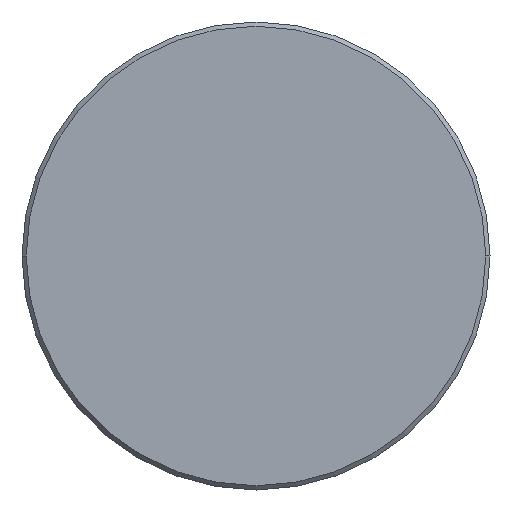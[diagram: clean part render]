
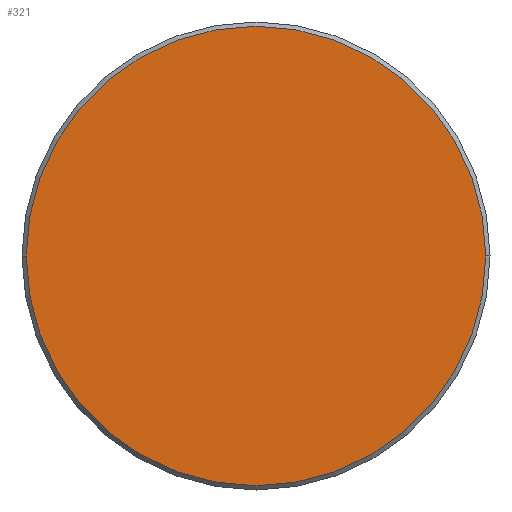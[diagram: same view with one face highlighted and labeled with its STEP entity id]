
A CAD part, left-side view. The second image highlights one B-rep face of the part: STEP entity #321.
In plain terms, the highlighted planar face has unit normal (-1, 0, 0).
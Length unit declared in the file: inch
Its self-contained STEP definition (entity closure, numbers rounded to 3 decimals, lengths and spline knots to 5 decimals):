
#29 = PLANE ( 'NONE',  #290 ) ;
#58 = DIRECTION ( 'NONE',  ( -1., 0., 0. ) ) ;
#61 = CARTESIAN_POINT ( 'NONE',  ( 0., 0., 0. ) ) ;
#76 = EDGE_CURVE ( 'NONE', #367, #220, #292, .T. ) ;
#95 = DIRECTION ( 'NONE',  ( 0., -1., 0. ) ) ;
#107 = DIRECTION ( 'NONE',  ( 0., -1., 0. ) ) ;
#130 = ORIENTED_EDGE ( 'NONE', *, *, #253, .T. ) ;
#132 = DIRECTION ( 'NONE',  ( -1., 0., 0. ) ) ;
#156 = CARTESIAN_POINT ( 'NONE',  ( 0., -0.21475, 0. ) ) ;
#195 = FACE_OUTER_BOUND ( 'NONE', #363, .T. ) ;
#220 = VERTEX_POINT ( 'NONE', #156 ) ;
#230 = AXIS2_PLACEMENT_3D ( 'NONE', #293, #343, #107 ) ;
#250 = CARTESIAN_POINT ( 'NONE',  ( 0., 0.21475, 0. ) ) ;
#253 = EDGE_CURVE ( 'NONE', #220, #367, #272, .T. ) ;
#272 = CIRCLE ( 'NONE', #347, 0.21475 ) ;
#280 = DIRECTION ( 'NONE',  ( 0., -1., 0. ) ) ;
#283 = CARTESIAN_POINT ( 'NONE',  ( 0., 0., 0. ) ) ;
#290 = AXIS2_PLACEMENT_3D ( 'NONE', #61, #58, #280 ) ;
#292 = CIRCLE ( 'NONE', #230, 0.21475 ) ;
#293 = CARTESIAN_POINT ( 'NONE',  ( 0., 0., 0. ) ) ;
#321 = ADVANCED_FACE ( 'NONE', ( #195 ), #29, .T. ) ;
#330 = ORIENTED_EDGE ( 'NONE', *, *, #76, .T. ) ;
#343 = DIRECTION ( 'NONE',  ( -1., 0., 0. ) ) ;
#347 = AXIS2_PLACEMENT_3D ( 'NONE', #283, #132, #95 ) ;
#363 = EDGE_LOOP ( 'NONE', ( #330, #130 ) ) ;
#367 = VERTEX_POINT ( 'NONE', #250 ) ;
